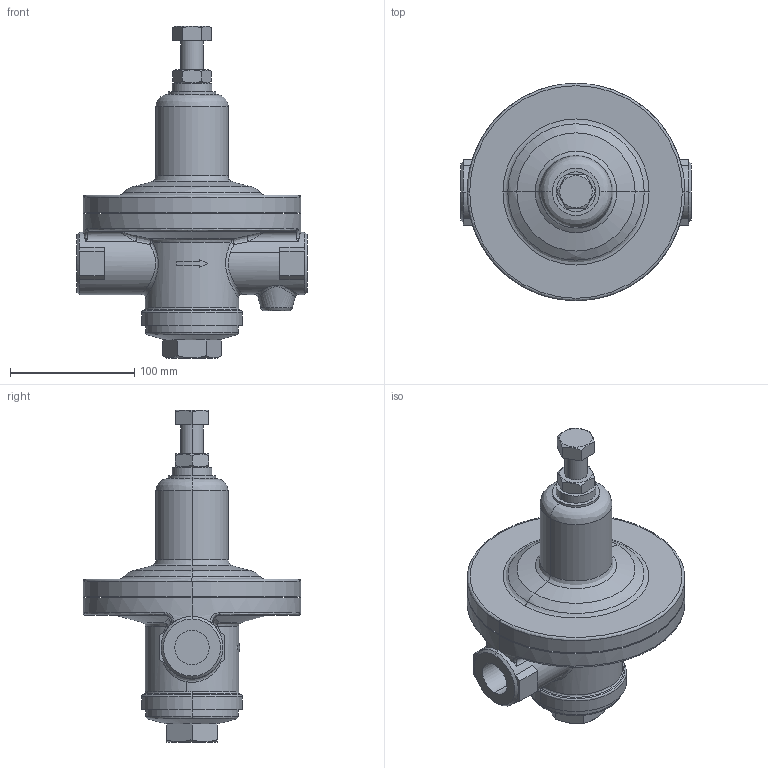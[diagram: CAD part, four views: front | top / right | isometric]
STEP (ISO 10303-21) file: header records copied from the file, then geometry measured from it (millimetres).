
FILE_DESCRIPTION( (''), '2;1');
FILE_NAME ('PC1276.10472.GD-6 25A_28038.stp','2026-01-15T14:18:04',(''),(''),'spGate 20.6.3 (****-****-****-****)','','');
FILE_SCHEMA (('AUTOMOTIVE_DESIGN'));
Length unit declared in the file: millimetre
Bounding box: 185 x 175 x 267.01 mm (x, y, z)
Volume: 1627828.6 mm3; surface area: 137217 mm2
Topology: 1 solids, 1 shells, 165 faces, 395 edges, 240 vertices
Faces by surface type: bspline 66, plane 62, cylinder 33, sphere 4
Entity records: 11213 total; most frequent: CARTESIAN_POINT 4778, ORIENTED_EDGE 782, DIRECTION 561, COLOUR_RGB 557, PRESENTATION_STYLE_ASSIGNMENT 557, STYLED_ITEM 557, EDGE_CURVE 391, DRAUGHTING_PRE_DEFINED_CURVE_FONT 391
